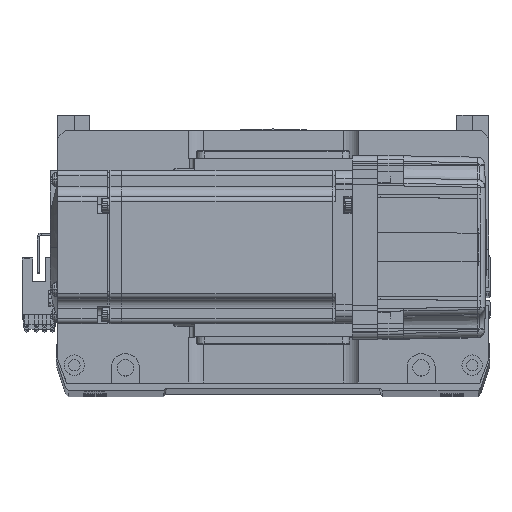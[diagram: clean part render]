
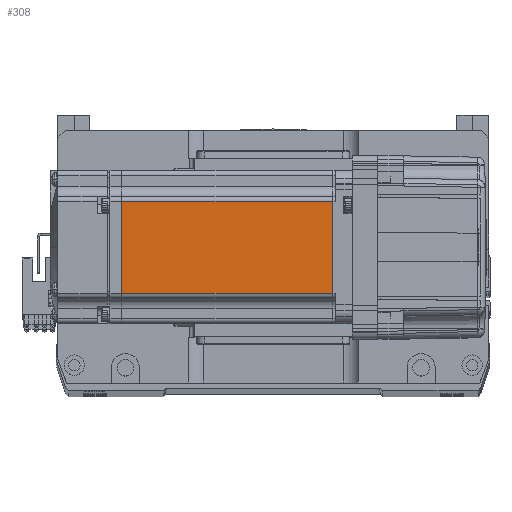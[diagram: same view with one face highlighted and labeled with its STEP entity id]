
A CAD part, top view. The second image highlights one B-rep face of the part: STEP entity #308.
In plain terms, the highlighted planar face has unit normal (0, 0, 1).
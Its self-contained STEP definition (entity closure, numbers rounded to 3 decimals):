
#308 = ADVANCED_FACE ( 'NONE', ( #17869 ), #35951, .T. ) ;
#3856 = LINE ( 'NONE', #7844, #55367 ) ;
#3941 = VERTEX_POINT ( 'NONE', #20619 ) ;
#5133 = DIRECTION ( 'NONE',  ( 0., 0., 1. ) ) ;
#7844 = CARTESIAN_POINT ( 'NONE',  ( -6.5, -18., 30. ) ) ;
#8632 = CARTESIAN_POINT ( 'NONE',  ( -7.75, 0., 30. ) ) ;
#8681 = DIRECTION ( 'NONE',  ( 0., -1., 0. ) ) ;
#10682 = ORIENTED_EDGE ( 'NONE', *, *, #43605, .F. ) ;
#12503 = CARTESIAN_POINT ( 'NONE',  ( -7.75, -18., 30. ) ) ;
#16688 = ORIENTED_EDGE ( 'NONE', *, *, #38104, .F. ) ;
#17869 = FACE_OUTER_BOUND ( 'NONE', #36431, .T. ) ;
#20619 = CARTESIAN_POINT ( 'NONE',  ( -90.45, -18., 30. ) ) ;
#23890 = LINE ( 'NONE', #29241, #38720 ) ;
#25736 = VERTEX_POINT ( 'NONE', #63647 ) ;
#28374 = ORIENTED_EDGE ( 'NONE', *, *, #29529, .T. ) ;
#29241 = CARTESIAN_POINT ( 'NONE',  ( -90.45, 0., 30. ) ) ;
#29529 = EDGE_CURVE ( 'NONE', #48126, #25736, #61989, .T. ) ;
#30705 = CARTESIAN_POINT ( 'NONE',  ( -6.5, -25., 30. ) ) ;
#32563 = DIRECTION ( 'NONE',  ( -1., 0., 0. ) ) ;
#33190 = CARTESIAN_POINT ( 'NONE',  ( -7.75, 18., 30. ) ) ;
#33456 = VERTEX_POINT ( 'NONE', #12503 ) ;
#33538 = DIRECTION ( 'NONE',  ( 0., -1., 0. ) ) ;
#35951 = PLANE ( 'NONE',  #41078 ) ;
#36431 = EDGE_LOOP ( 'NONE', ( #10682, #28374, #37138, #16688 ) ) ;
#37138 = ORIENTED_EDGE ( 'NONE', *, *, #54494, .T. ) ;
#38104 = EDGE_CURVE ( 'NONE', #33456, #3941, #3856, .T. ) ;
#38720 = VECTOR ( 'NONE', #8681, 1000. ) ;
#39512 = LINE ( 'NONE', #8632, #55843 ) ;
#39722 = DIRECTION ( 'NONE',  ( -1., 0., 0. ) ) ;
#41078 = AXIS2_PLACEMENT_3D ( 'NONE', #30705, #5133, #54876 ) ;
#42518 = VECTOR ( 'NONE', #39722, 1000. ) ;
#43605 = EDGE_CURVE ( 'NONE', #48126, #33456, #39512, .T. ) ;
#48126 = VERTEX_POINT ( 'NONE', #33190 ) ;
#54301 = CARTESIAN_POINT ( 'NONE',  ( -6.5, 18., 30. ) ) ;
#54494 = EDGE_CURVE ( 'NONE', #25736, #3941, #23890, .T. ) ;
#54876 = DIRECTION ( 'NONE',  ( 1., 0., 0. ) ) ;
#55367 = VECTOR ( 'NONE', #32563, 1000. ) ;
#55843 = VECTOR ( 'NONE', #33538, 1000. ) ;
#61989 = LINE ( 'NONE', #54301, #42518 ) ;
#63647 = CARTESIAN_POINT ( 'NONE',  ( -90.45, 18., 30. ) ) ;
